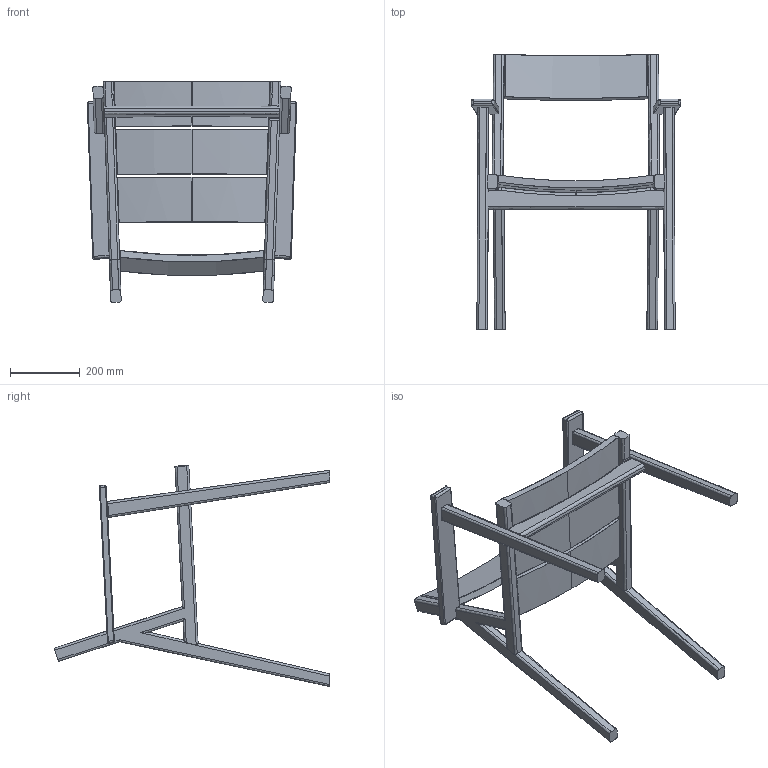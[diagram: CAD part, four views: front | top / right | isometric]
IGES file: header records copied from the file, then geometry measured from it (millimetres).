
Start section: SolidWorks IGES file using analytic representation for surfaces
Global section: file name: C:\Users\Utilizador\Desktop\Outdoor Files\575S Outdoor Dining Armchair_3D IGS.IGS; native system: SolidWorks 2016; preprocessor: SolidWorks 2016; author: Utilizador; date: 220124.083924; units: millimetre
Bounding box: 601.89 x 791.67 x 635.25 mm (x, y, z)
Surface area: 1265534.8 mm2 (no closed solid volume)
Topology: 0 solids, 0 shells, 318 faces, 3814 edges, 3800 vertices
Faces by surface type: bspline 190, revolution 128
